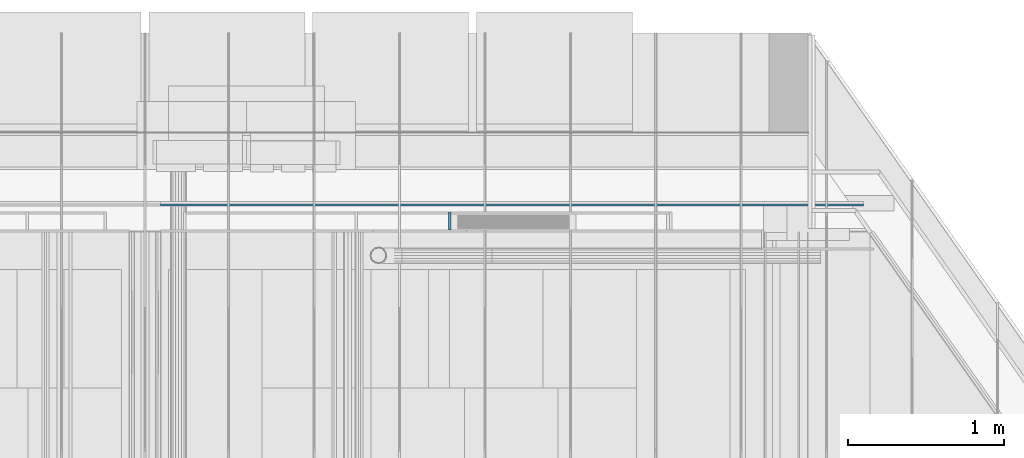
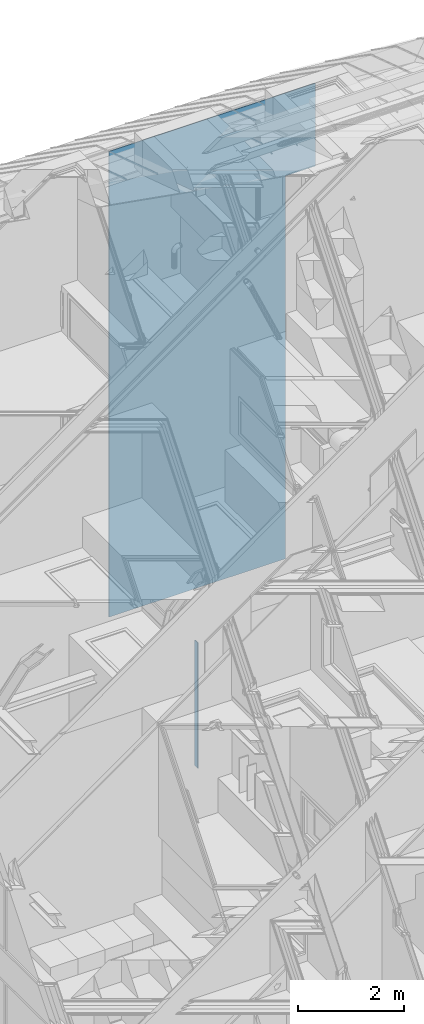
# One storey, part 291 of 583: 2 slabs.
"""IFC2X3 building model written with IfcOpenShell, lengths in metres."""

from ifc_helpers import new_model, entity, si_unit, converted_unit, derived_unit, money_unit, direction, frame, origin_with_axes, place, context, subcontext, project, spatial, faceted_brep, material, type_object, element, save


model = new_model("IFC2X3")

# Units and contexts
model_context = context("Model", 3, precision=1e-05, world=origin_with_axes(), true_north=direction((0.0, 1.0)))
body_context = subcontext(model_context, "Body", "Model", "MODEL_VIEW", scale=1.0)
ifc_project = project(units=[si_unit("LENGTHUNIT", "METRE"), si_unit("AREAUNIT", "SQUARE_METRE"), si_unit("VOLUMEUNIT", "CUBIC_METRE"), si_unit("ABSORBEDDOSEUNIT", "GRAY"), si_unit("AMOUNTOFSUBSTANCEUNIT", "MOLE"), si_unit("DOSEEQUIVALENTUNIT", "SIEVERT"), si_unit("ELECTRICCAPACITANCEUNIT", "FARAD"), si_unit("ELECTRICCHARGEUNIT", "COULOMB"), si_unit("ELECTRICCONDUCTANCEUNIT", "SIEMENS"), si_unit("ELECTRICCURRENTUNIT", "AMPERE"), si_unit("ELECTRICRESISTANCEUNIT", "OHM"), si_unit("ELECTRICVOLTAGEUNIT", "VOLT"), si_unit("ENERGYUNIT", "JOULE"), si_unit("FORCEUNIT", "NEWTON"), si_unit("FREQUENCYUNIT", "HERTZ"), si_unit("ILLUMINANCEUNIT", "LUX"), si_unit("INDUCTANCEUNIT", "HENRY"), si_unit("LUMINOUSFLUXUNIT", "LUMEN"), si_unit("LUMINOUSINTENSITYUNIT", "CANDELA"), si_unit("MAGNETICFLUXDENSITYUNIT", "TESLA"), si_unit("MAGNETICFLUXUNIT", "WEBER"), si_unit("MASSUNIT", "GRAM"), converted_unit("PLANEANGLEUNIT", "degree", entity("IfcReal", 0.0174532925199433), si_unit("PLANEANGLEUNIT", "RADIAN"), dimensions=[0, 0, 0, 0, 0, 0, 0]), si_unit("POWERUNIT", "WATT"), si_unit("PRESSUREUNIT", "PASCAL"), si_unit("RADIOACTIVITYUNIT", "BECQUEREL"), si_unit("SOLIDANGLEUNIT", "STERADIAN"), si_unit("THERMODYNAMICTEMPERATUREUNIT", "KELVIN"), si_unit("TIMEUNIT", "SECOND"), derived_unit("ACCELERATIONUNIT", [(si_unit("LENGTHUNIT", "METRE"), 1), (si_unit("TIMEUNIT", "SECOND"), -2)]), derived_unit("ANGULARVELOCITYUNIT", [(converted_unit("PLANEANGLEUNIT", "degree", entity("IfcReal", 0.0174532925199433), si_unit("PLANEANGLEUNIT", "RADIAN"), dimensions=[0, 0, 0, 0, 0, 0, 0]), 1), (si_unit("TIMEUNIT", "SECOND"), -1)]), derived_unit("CURVATUREUNIT", [(converted_unit("PLANEANGLEUNIT", "degree", entity("IfcReal", 0.0174532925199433), si_unit("PLANEANGLEUNIT", "RADIAN"), dimensions=[0, 0, 0, 0, 0, 0, 0]), 1), (si_unit("LENGTHUNIT", "METRE"), -1)]), derived_unit("DYNAMICVISCOSITYUNIT", [(si_unit("PRESSUREUNIT", "PASCAL"), 1), (si_unit("TIMEUNIT", "SECOND"), 1)]), derived_unit("HEATFLUXDENSITYUNIT", [(si_unit("POWERUNIT", "WATT"), 1), (si_unit("LENGTHUNIT", "METRE"), -2)]), derived_unit("HEATINGVALUEUNIT", [(si_unit("ENERGYUNIT", "JOULE"), 1), (si_unit("MASSUNIT", "GRAM"), -1)]), derived_unit("INTEGERCOUNTRATEUNIT", [(si_unit("TIMEUNIT", "SECOND"), -1)]), derived_unit("IONCONCENTRATIONUNIT", [(si_unit("MASSUNIT", "GRAM"), 1), (si_unit("VOLUMEUNIT", "CUBIC_METRE"), -1)]), derived_unit("ISOTHERMALMOISTURECAPACITYUNIT", [(si_unit("VOLUMEUNIT", "CUBIC_METRE"), 1), (si_unit("MASSUNIT", "GRAM"), -1)]), derived_unit("KINEMATICVISCOSITYUNIT", [(si_unit("AREAUNIT", "SQUARE_METRE"), 1), (si_unit("TIMEUNIT", "SECOND"), -1)]), derived_unit("LINEARFORCEUNIT", [(si_unit("FORCEUNIT", "NEWTON"), 1), (si_unit("LENGTHUNIT", "METRE"), -1)]), derived_unit("LINEARMOMENTUNIT", [(si_unit("FORCEUNIT", "NEWTON"), 1), (si_unit("LENGTHUNIT", "METRE"), -1)]), derived_unit("LINEARSTIFFNESSUNIT", [(si_unit("FORCEUNIT", "NEWTON"), 1), (si_unit("LENGTHUNIT", "METRE"), -1)]), derived_unit("LINEARVELOCITYUNIT", [(si_unit("LENGTHUNIT", "METRE"), 1), (si_unit("TIMEUNIT", "SECOND"), -1)]), derived_unit("LUMINOUSINTENSITYDISTRIBUTIONUNIT", [(si_unit("LUMINOUSINTENSITYUNIT", "CANDELA"), 1), (si_unit("LUMINOUSFLUXUNIT", "LUMEN"), -1)]), derived_unit("MASSDENSITYUNIT", [(si_unit("MASSUNIT", "GRAM"), 1), (si_unit("VOLUMEUNIT", "CUBIC_METRE"), -1)]), derived_unit("MASSFLOWRATEUNIT", [(si_unit("MASSUNIT", "GRAM"), 1), (si_unit("TIMEUNIT", "SECOND"), -1)]), derived_unit("MASSPERLENGTHUNIT", [(si_unit("MASSUNIT", "GRAM"), 1), (si_unit("LENGTHUNIT", "METRE"), -1)]), derived_unit("MODULUSOFELASTICITYUNIT", [(si_unit("FORCEUNIT", "NEWTON"), 1), (si_unit("AREAUNIT", "SQUARE_METRE"), -1)]), derived_unit("MODULUSOFLINEARSUBGRADEREACTIONUNIT", [(si_unit("FORCEUNIT", "NEWTON"), 1), (si_unit("LENGTHUNIT", "METRE"), -2)]), derived_unit("MODULUSOFROTATIONALSUBGRADEREACTIONUNIT", [(si_unit("FORCEUNIT", "NEWTON"), 1), (si_unit("LENGTHUNIT", "METRE"), 1)]), derived_unit("MODULUSOFSUBGRADEREACTIONUNIT", [(si_unit("FORCEUNIT", "NEWTON"), 1), (si_unit("VOLUMEUNIT", "CUBIC_METRE"), -1)]), derived_unit("MOISTUREDIFFUSIVITYUNIT", [(si_unit("VOLUMEUNIT", "CUBIC_METRE"), 1), (si_unit("TIMEUNIT", "SECOND"), -1)]), derived_unit("MOLECULARWEIGHTUNIT", [(si_unit("MASSUNIT", "GRAM"), 1), (si_unit("AMOUNTOFSUBSTANCEUNIT", "MOLE"), -1)]), derived_unit("PLANARFORCEUNIT", [(si_unit("FORCEUNIT", "NEWTON"), 1), (si_unit("LENGTHUNIT", "METRE"), -2)]), derived_unit("ROTATIONALFREQUENCYUNIT", [(si_unit("TIMEUNIT", "SECOND"), -1)]), derived_unit("ROTATIONALMASSUNIT", [(si_unit("MASSUNIT", "GRAM"), 1), (si_unit("LENGTHUNIT", "METRE"), 2)]), derived_unit("ROTATIONALSTIFFNESSUNIT", [(si_unit("FORCEUNIT", "NEWTON"), 1), (si_unit("LENGTHUNIT", "METRE"), 1), (converted_unit("PLANEANGLEUNIT", "degree", entity("IfcReal", 0.0174532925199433), si_unit("PLANEANGLEUNIT", "RADIAN"), dimensions=[0, 0, 0, 0, 0, 0, 0]), -1)]), derived_unit("SECTIONAREAINTEGRALUNIT", [(si_unit("LENGTHUNIT", "METRE"), 5)]), derived_unit("SECTIONMODULUSUNIT", [(si_unit("LENGTHUNIT", "METRE"), 3)]), derived_unit("SHEARMODULUSUNIT", [(si_unit("FORCEUNIT", "NEWTON"), 1), (si_unit("AREAUNIT", "SQUARE_METRE"), -1)]), derived_unit("SOUNDPOWERUNIT", [(si_unit("ENERGYUNIT", "JOULE"), 1), (si_unit("TIMEUNIT", "SECOND"), -1)]), derived_unit("SPECIFICHEATCAPACITYUNIT", [(si_unit("FORCEUNIT", "NEWTON"), 1), (si_unit("MASSUNIT", "GRAM"), -1), (si_unit("THERMODYNAMICTEMPERATUREUNIT", "KELVIN"), -1)]), derived_unit("TEMPERATUREGRADIENTUNIT", [(si_unit("THERMODYNAMICTEMPERATUREUNIT", "KELVIN"), 1), (si_unit("LENGTHUNIT", "METRE"), -1)]), derived_unit("THERMALADMITTANCEUNIT", [(si_unit("POWERUNIT", "WATT"), 1), (si_unit("AREAUNIT", "SQUARE_METRE"), -1), (si_unit("THERMODYNAMICTEMPERATUREUNIT", "KELVIN"), -1)]), derived_unit("THERMALCONDUCTANCEUNIT", [(si_unit("POWERUNIT", "WATT"), 1), (si_unit("LENGTHUNIT", "METRE"), -1), (si_unit("THERMODYNAMICTEMPERATUREUNIT", "KELVIN"), -1)]), derived_unit("THERMALEXPANSIONCOEFFICIENTUNIT", [(si_unit("THERMODYNAMICTEMPERATUREUNIT", "KELVIN"), -1)]), derived_unit("THERMALRESISTANCEUNIT", [(si_unit("AREAUNIT", "SQUARE_METRE"), 1), (si_unit("POWERUNIT", "WATT"), -1)]), derived_unit("THERMALTRANSMITTANCEUNIT", [(si_unit("POWERUNIT", "WATT"), 1), (si_unit("AREAUNIT", "SQUARE_METRE"), -1), (si_unit("THERMODYNAMICTEMPERATUREUNIT", "KELVIN"), -1)]), derived_unit("TORQUEUNIT", [(si_unit("FORCEUNIT", "NEWTON"), 1), (si_unit("LENGTHUNIT", "METRE"), 1)]), derived_unit("VAPORPERMEABILITYUNIT", [(si_unit("MASSUNIT", "GRAM"), 1), (si_unit("TIMEUNIT", "SECOND"), -1)]), derived_unit("VOLUMETRICFLOWRATEUNIT", [(si_unit("VOLUMEUNIT", "CUBIC_METRE"), 1), (si_unit("TIMEUNIT", "SECOND"), -1)]), derived_unit("WARPINGCONSTANTUNIT", [(si_unit("LENGTHUNIT", "METRE"), 6)]), derived_unit("WARPINGMOMENTUNIT", [(si_unit("FORCEUNIT", "NEWTON"), 1), (si_unit("LENGTHUNIT", "METRE"), 2)]), money_unit("GBP")], contexts=[model_context])

# Site, building, storey
site_placement = place(None, origin_with_axes())
site = spatial("IfcSite", under=ifc_project, at=site_placement, Name="Site", CompositionType="ELEMENT")
building_placement = place(site_placement, origin_with_axes())
building = spatial("IfcBuilding", under=site, at=building_placement, Name="Building01", CompositionType="ELEMENT")
storey_placement = place(building_placement, frame((0.0, 0.0, 20.78), z_axis=(0.0, 0.0, 1.0), x_axis=(1.0, 0.0, 0.0)))
storey = spatial("IfcBuildingStorey", under=building, at=storey_placement, Name="RL", CompositionType="ELEMENT", Elevation=20.78)

# Slabs
ifc_material = material(Name="A_BSUK_CeilingSoffitFinishes_Suspended")
slab_type = type_object("IfcSlabType", Name="A-FloorsSlabs A_BSUK_Slabs", PredefinedType="FLOOR")
placement = place(storey_placement, frame((0.0, 0.0, -20.78), z_axis=(0.0, 0.0, 1.0), x_axis=(1.0, 0.0, 0.0)))
element("IfcSlab", 1, at=placement, inside=storey, type_object=slab_type, material=ifc_material, Name="A-FloorsSlabs A_BSUK_Slabs", ObjectType="CompoundSlabLeaf", context=body_context, shape_type="Brep", body=[
    faceted_brep([(9.3966, 20.195, 12.25), (9.4116, 20.195, 12.25), (9.4116, 20.31, 12.25), (9.3966, 20.31, 12.25), (9.3966, 20.195, 9.35), (9.4116, 20.195, 9.35), (9.3966, 20.31, 9.35), (9.4116, 20.31, 9.35)], [[[0, 1, 2, 3]], [[4, 5, 1, 0]], [[6, 7, 5, 4]], [[3, 2, 7, 6]], [[1, 5, 7, 2]], [[3, 6, 4, 0]]]),
])
element("IfcSlab", 2, at=placement, inside=storey, type_object=slab_type, material=ifc_material, Name="A-FloorsSlabs A_BSUK_Slabs", ObjectType="CompoundSlabLeaf", context=body_context, shape_type="Brep", body=[
    faceted_brep([(11.399939, 20.3468, 13.4), (11.399939, 20.3618, 13.4), (11.399939, 20.3618, 22.239976), (11.399939, 20.3468, 22.239976), (7.549915, 20.3468, 13.4), (7.549915, 20.3618, 13.4), (7.549915, 20.3468, 24.154404), (7.549915, 20.3618, 24.154404), (12.054189, 20.3468, 24.154404), (12.054189, 20.3618, 24.154404), (12.054189, 20.3468, 22.239976), (12.054189, 20.3618, 22.239976)], [[[0, 1, 2, 3]], [[4, 5, 1, 0]], [[6, 7, 5, 4]], [[8, 9, 7, 6]], [[10, 11, 9, 8]], [[3, 2, 11, 10]], [[1, 5, 7, 9, 11, 2]], [[3, 10, 8, 6, 4, 0]]]),
])

save(model, "model.ifc")
